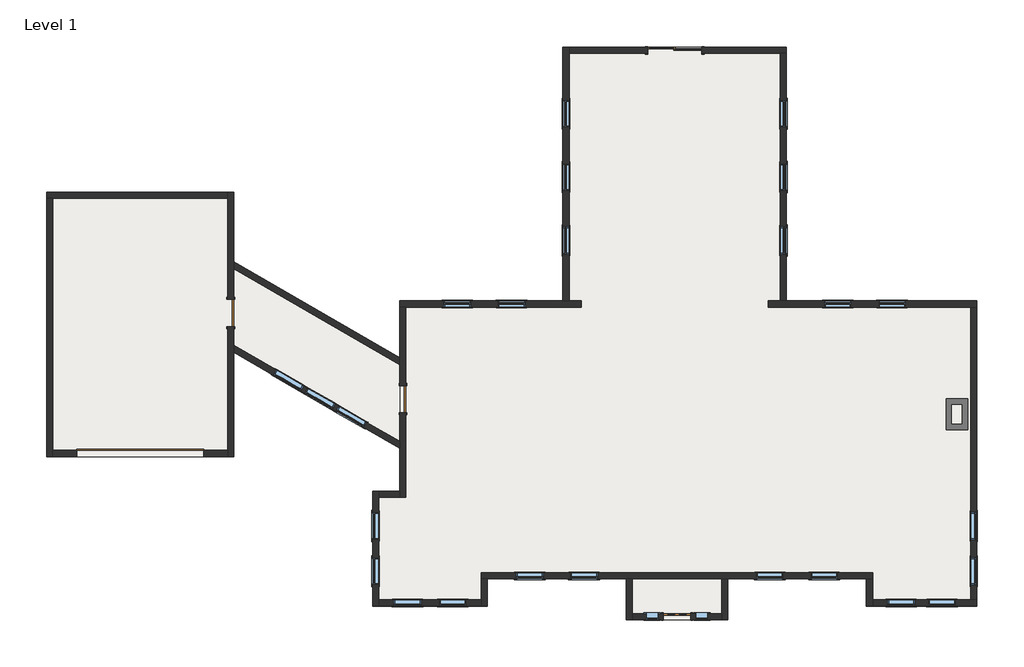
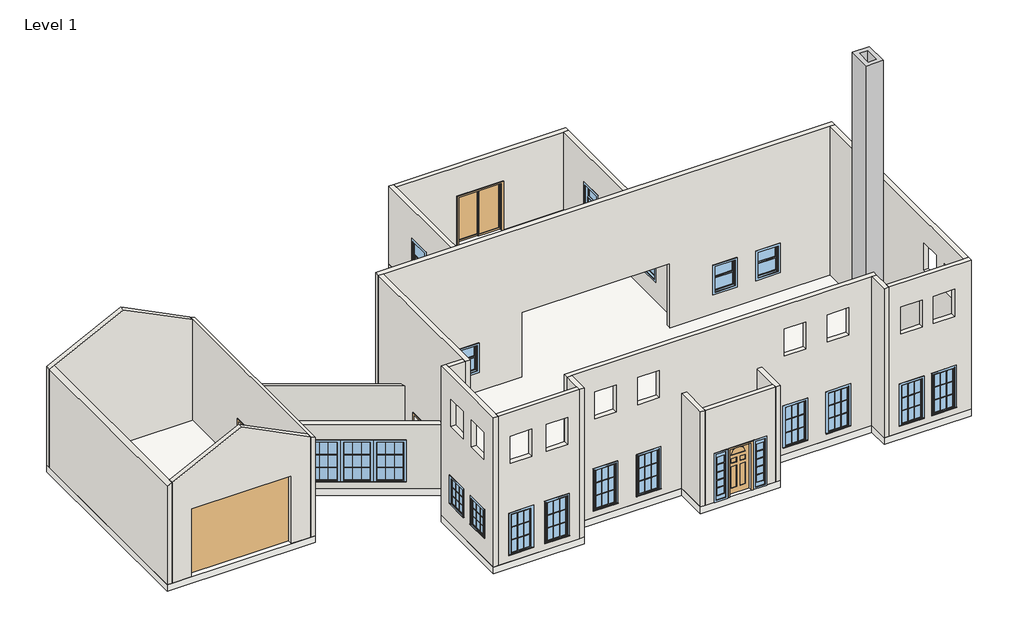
# One storey: 27 windows, 22 walls, 5 doors, 3 slabs, 1 proxy.
"""IFC4 building model written with IfcOpenShell, lengths in millimetres."""

from ifc_helpers import new_model, si_unit, frame, origin, origin_with_axes, place, context, project, spatial, polyline, outline, extrude, faceted_brep, transform, mapped, element, save
from components import chimney_chimney_af68f421, overhead_sectional_14_x_10_8c0ee61c, door_b1a02c97, door_4f2f89b6, door_f8fd2036, casement_3x3_with_trim_8b323df3, casement_3x3_with_trim_29c06734, casement_3x3_with_trim_7d330b5e, double_hung_with_trim_31198920, window_b28cb548, window_fc224a87

model = new_model("IFC4")

# Units and contexts
model_context = context("Model", 3, world=origin())
ifc_project = project(units=[si_unit("LENGTHUNIT", "METRE", prefix="MILLI")], contexts=[model_context])

# Site, building, storey
site = spatial("IfcSite", under=ifc_project)
building = spatial("IfcBuilding", under=site)
storey = spatial("IfcBuildingStorey", under=building, Name="Level 1", Elevation=0.0)

# Proxy
placement = place(None, origin())
chimney_chimney_shape = chimney_chimney_af68f421(model_context)
element("IfcBuildingElementProxy", 1, Name="chimney : chimney", ObjectType="chimney : chimney", at=placement, inside=storey, context=model_context, shape_type="MappedRepresentation", body=[
    mapped(chimney_chimney_shape, transform((0.0, 0.0, 0.0), x_axis=(1.0, 0.0, 0.0), y_axis=(0.0, 1.0, 0.0), z_axis=(0.0, 0.0, 1.0))),
])

# Doors
overhead_sectional_14_x_10_shape = overhead_sectional_14_x_10_8c0ee61c(model_context)
element("IfcDoor", 2, ObjectType="Overhead Sectional : 14 x 10", at=placement, inside=storey, context=model_context, shape_type="MappedRepresentation", body=[
    mapped(overhead_sectional_14_x_10_shape, transform((-185224.9354666, 11098.6757393, 0.0), x_axis=(-1.0, 0.0, 0.0), y_axis=(0.0, -1.0, 0.0), z_axis=(0.0, 0.0, 1.0))),
])
door_shape = door_b1a02c97(model_context)
element("IfcDoor", 3, ObjectType="Sample Decorative 2 : 36\" x 84\"", at=placement, inside=storey, context=model_context, shape_type="MappedRepresentation", body=[
    mapped(door_shape, transform((-167165.5354666, 5612.2757393, 0.0), x_axis=(1.0, 0.0, 0.0), y_axis=(0.0, 1.0, 0.0), z_axis=(0.0, 0.0, 1.0))),
])
door_2_shape = door_4f2f89b6(model_context)
element("IfcDoor", 4, ObjectType="Sgl Flush : 36\" x 80\"", at=placement, inside=storey, context=model_context, shape_type="MappedRepresentation", body=[
    mapped(door_2_shape, transform((-176385.7354666, 12927.4757393, 0.0), x_axis=(0.0, -1.0, 0.0), y_axis=(1.0, 0.0, 0.0), z_axis=(0.0, 0.0, 1.0))),
])
element("IfcDoor", 5, ObjectType="Sgl Flush : 36\" x 80\"", at=placement, inside=storey, context=model_context, shape_type="MappedRepresentation", body=[
    mapped(door_2_shape, transform((-182176.9354666, 15823.0757393, 0.0), x_axis=(0.0, -1.0, 0.0), y_axis=(1.0, 0.0, 0.0), z_axis=(0.0, 0.0, 1.0))),
])
door_3_shape = door_f8fd2036(model_context)
element("IfcDoor", 6, ObjectType="Sliding-2 panel : 72\" x 84\"", at=placement, inside=storey, context=model_context, shape_type="MappedRepresentation", body=[
    mapped(door_3_shape, transform((-167241.7354666, 24535.2757393, 0.0), x_axis=(1.0, 0.0, 0.0), y_axis=(0.0, 1.0, 0.0), z_axis=(0.0, 0.0, 1.0))),
])

# Slabs
element("IfcSlab", 7, ObjectType="Generic - 12\"", at=placement, inside=storey, context=model_context, shape_type="SweptSolid", body=[
    extrude(outline(polyline([(-188374.5354666, 19887.0757393), (-182075.3354666, 19887.0757393), (-182075.3354666, 10997.0757393), (-188374.5354666, 10997.0757393), (-188374.5354666, 19887.0757393)])), frame((0.0, 0.0, -304.8), z_axis=(0.0, 0.0, 1.0), x_axis=(1.0, 0.0, 0.0)), (0.0, 0.0, 1.0), 304.8),
])
element("IfcSlab", 8, ObjectType="Generic - 12\"", at=placement, inside=storey, context=model_context, shape_type="SweptSolid", body=[
    extrude(outline(polyline([(-182075.3354666, 17548.8854056), (-176487.3354666, 14322.6521013), (-176487.3354666, 11272.3951592), (-182075.3354666, 14498.6284634), (-182075.3354666, 17548.8854056)])), frame((0.0, 0.0, -304.8), z_axis=(0.0, 0.0, 1.0), x_axis=(1.0, 0.0, 0.0)), (0.0, 0.0, 1.0), 304.8),
])
element("IfcSlab", 9, ObjectType="Generic - 12\"", at=placement, inside=storey, context=model_context, shape_type="SweptSolid", body=[
    extrude(outline(polyline([(-171000.9354666, 16229.4757393), (-171000.9354666, 24763.8757393), (-163482.5354666, 24763.8757393), (-163482.5354666, 16229.4757393), (-157081.7354666, 16229.4757393), (-157081.7354666, 5967.8757393), (-160790.1354666, 5967.8757393), (-160790.1354666, 6882.2757393), (-165463.7354666, 6882.2757393), (-165463.7354666, 5510.6757393), (-168867.3354666, 5510.6757393), (-168867.3354666, 6882.2757393), (-173540.9354666, 6882.2757393), (-173540.9354666, 5967.8757393), (-177401.7354666, 5967.8757393), (-177401.7354666, 9828.6757393), (-176487.3354666, 9828.6757393), (-176487.3354666, 16229.4757393), (-171000.9354666, 16229.4757393)])), frame((0.0, 0.0, -304.8), z_axis=(0.0, 0.0, 1.0), x_axis=(1.0, 0.0, 0.0)), (0.0, 0.0, 1.0), 304.8),
])

# Walls
element("IfcWall", 10, ObjectType="Generic - 8\"", at=placement, inside=storey, context=model_context, shape_type="Brep", body=[
    faceted_brep([(-176487.3354666, 16026.2757393, 0.0), (-176284.1354666, 16026.2757393, 0.0), (-170391.3354666, 16026.2757393, 0.0), (-170391.3354666, 16026.2757393, 2895.6), (-164092.1354666, 16026.2757393, 2895.6), (-164092.1354666, 16026.2757393, 0.0), (-157284.9354666, 16026.2757393, 0.0), (-157081.7354666, 16026.2757393, 0.0), (-157081.7354666, 16026.2757393, 6705.6), (-157284.9354666, 16026.2757393, 6705.6), (-176284.1354666, 16026.2757393, 6705.6), (-176487.3354666, 16026.2757393, 6705.6), (-159469.3354666, 16026.2757393, 2133.6), (-159469.3354666, 16026.2757393, 914.4), (-160383.7354666, 16026.2757393, 914.4), (-160383.7354666, 16026.2757393, 2133.6), (-161298.1354666, 16026.2757393, 2133.6), (-161298.1354666, 16026.2757393, 914.4), (-162212.5354666, 16026.2757393, 914.4), (-162212.5354666, 16026.2757393, 2133.6), (-172270.9354666, 16026.2757393, 2133.6), (-172270.9354666, 16026.2757393, 914.4), (-173185.3354666, 16026.2757393, 914.4), (-173185.3354666, 16026.2757393, 2133.6), (-174099.7354666, 16026.2757393, 2133.6), (-174099.7354666, 16026.2757393, 914.4), (-175014.1354666, 16026.2757393, 914.4), (-175014.1354666, 16026.2757393, 2133.6), (-176487.3354666, 16229.4757393, 0.0), (-176487.3354666, 16229.4757393, 6705.6), (-157081.7354666, 16229.4757393, 6705.6), (-157081.7354666, 16229.4757393, 0.0), (-163482.5354666, 16229.4757393, 0.0), (-163685.7354666, 16229.4757393, 0.0), (-164092.1354666, 16229.4757393, 0.0), (-164092.1354666, 16229.4757393, 2895.6), (-170391.3354666, 16229.4757393, 2895.6), (-170391.3354666, 16229.4757393, 0.0), (-170797.7354666, 16229.4757393, 0.0), (-171000.9354666, 16229.4757393, 0.0), (-159469.3354666, 16229.4757393, 2133.6), (-160383.7354666, 16229.4757393, 2133.6), (-160383.7354666, 16229.4757393, 914.4), (-159469.3354666, 16229.4757393, 914.4), (-161298.1354666, 16229.4757393, 2133.6), (-162212.5354666, 16229.4757393, 2133.6), (-162212.5354666, 16229.4757393, 914.4), (-161298.1354666, 16229.4757393, 914.4), (-172270.9354666, 16229.4757393, 2133.6), (-173185.3354666, 16229.4757393, 2133.6), (-173185.3354666, 16229.4757393, 914.4), (-172270.9354666, 16229.4757393, 914.4), (-174099.7354666, 16229.4757393, 2133.6), (-175014.1354666, 16229.4757393, 2133.6), (-175014.1354666, 16229.4757393, 914.4), (-174099.7354666, 16229.4757393, 914.4)], [[[0, 1, 2, 3, 4, 5, 6, 7, 8, 9, 10, 11], [12, 13, 14, 15], [16, 17, 18, 19], [20, 21, 22, 23], [24, 25, 26, 27]], [[28, 29, 30, 31, 32, 33, 34, 35, 36, 37, 38, 39], [40, 41, 42, 43], [44, 45, 46, 47], [48, 49, 50, 51], [52, 53, 54, 55]], [[2, 1, 0, 28, 39, 38, 37]], [[11, 10, 9, 8, 30, 29]], [[0, 11, 29, 28]], [[3, 2, 37, 36]], [[4, 3, 36, 35]], [[5, 4, 35, 34]], [[7, 6, 5, 34, 33, 32, 31]], [[8, 7, 31, 30]], [[13, 12, 40, 43]], [[14, 13, 43, 42]], [[15, 14, 42, 41]], [[12, 15, 41, 40]], [[17, 16, 44, 47]], [[18, 17, 47, 46]], [[19, 18, 46, 45]], [[16, 19, 45, 44]], [[21, 20, 48, 51]], [[22, 21, 51, 50]], [[23, 22, 50, 49]], [[20, 23, 49, 48]], [[25, 24, 52, 55]], [[26, 25, 55, 54]], [[27, 26, 54, 53]], [[24, 27, 53, 52]]]),
])
element("IfcWall", 11, ObjectType="Generic - 8\"", at=placement, inside=storey, context=model_context, shape_type="Brep", body=[
    faceted_brep([(-176284.1354666, 9625.4757393, 0.0), (-176284.1354666, 12470.2757393, 0.0), (-176284.1354666, 12470.2757393, 2032.0), (-176284.1354666, 13384.6757393, 2032.0), (-176284.1354666, 13384.6757393, 0.0), (-176284.1354666, 16026.2757393, 0.0), (-176284.1354666, 16026.2757393, 6705.6), (-176284.1354666, 9625.4757393, 6705.6), (-176487.3354666, 12470.2757393, 2032.0), (-176487.3354666, 12470.2757393, 0.0), (-176487.3354666, 11507.0303086, 0.0), (-176487.3354666, 11272.3951592, 0.0), (-176487.3354666, 9828.6757393, 0.0), (-176487.3354666, 9625.4757393, 0.0), (-176487.3354666, 9625.4757393, 6705.6), (-176487.3354666, 9828.6757393, 6705.6), (-176487.3354666, 16026.2757393, 6705.6), (-176487.3354666, 16026.2757393, 0.0), (-176487.3354666, 14322.6521013, 0.0), (-176487.3354666, 14088.0169519, 0.0), (-176487.3354666, 13384.6757393, 0.0), (-176487.3354666, 13384.6757393, 2032.0)], [[[0, 1, 2, 3, 4, 5, 6, 7]], [[8, 9, 10, 11, 12, 13, 14, 15, 16, 17, 18, 19, 20, 21]], [[13, 12, 11, 10, 9, 1, 0]], [[20, 19, 18, 17, 5, 4]], [[7, 6, 16, 15, 14]], [[6, 5, 17, 16]], [[0, 7, 14, 13]], [[2, 1, 9, 8]], [[3, 2, 8, 21]], [[4, 3, 21, 20]]]),
])
element("IfcWall", 12, ObjectType="Generic - 8\"", at=placement, inside=storey, context=model_context, shape_type="Brep", body=[
    faceted_brep([(-160586.9354666, 7085.4757393, 0.0), (-173744.1354666, 7085.4757393, 0.0), (-173744.1354666, 7085.4757393, 6705.6), (-160586.9354666, 7085.4757393, 6705.6), (-162669.7354666, 7085.4757393, 5638.8), (-162669.7354666, 7085.4757393, 4419.6), (-161755.3354666, 7085.4757393, 4419.6), (-161755.3354666, 7085.4757393, 5638.8), (-164498.5354666, 7085.4757393, 5638.8), (-164498.5354666, 7085.4757393, 4419.6), (-163584.1354666, 7085.4757393, 4419.6), (-163584.1354666, 7085.4757393, 5638.8), (-170746.9354666, 7085.4757393, 5638.8), (-170746.9354666, 7085.4757393, 4419.6), (-169832.5354666, 7085.4757393, 4419.6), (-169832.5354666, 7085.4757393, 5638.8), (-172575.7354666, 7085.4757393, 5638.8), (-172575.7354666, 7085.4757393, 4419.6), (-171661.3354666, 7085.4757393, 4419.6), (-171661.3354666, 7085.4757393, 5638.8), (-162669.7354666, 7085.4757393, 2133.6), (-162669.7354666, 7085.4757393, 304.8), (-161755.3354666, 7085.4757393, 304.8), (-161755.3354666, 7085.4757393, 2133.6), (-164498.5354666, 7085.4757393, 2133.6), (-164498.5354666, 7085.4757393, 304.8), (-163584.1354666, 7085.4757393, 304.8), (-163584.1354666, 7085.4757393, 2133.6), (-170746.9354666, 7085.4757393, 2133.6), (-170746.9354666, 7085.4757393, 304.8), (-169832.5354666, 7085.4757393, 304.8), (-169832.5354666, 7085.4757393, 2133.6), (-172575.7354666, 7085.4757393, 2133.6), (-172575.7354666, 7085.4757393, 304.8), (-171661.3354666, 7085.4757393, 304.8), (-171661.3354666, 7085.4757393, 2133.6), (-160586.9354666, 6882.2757393, 0.0), (-160586.9354666, 6882.2757393, 6705.6), (-160790.1354666, 6882.2757393, 6705.6), (-173540.9354666, 6882.2757393, 6705.6), (-173744.1354666, 6882.2757393, 6705.6), (-173744.1354666, 6882.2757393, 0.0), (-173540.9354666, 6882.2757393, 0.0), (-168867.3354666, 6882.2757393, 0.0), (-168664.1354666, 6882.2757393, 0.0), (-165666.9354666, 6882.2757393, 0.0), (-165463.7354666, 6882.2757393, 0.0), (-160790.1354666, 6882.2757393, 0.0), (-162669.7354666, 6882.2757393, 5638.8), (-161755.3354666, 6882.2757393, 5638.8), (-161755.3354666, 6882.2757393, 4419.6), (-162669.7354666, 6882.2757393, 4419.6), (-164498.5354666, 6882.2757393, 5638.8), (-163584.1354666, 6882.2757393, 5638.8), (-163584.1354666, 6882.2757393, 4419.6), (-164498.5354666, 6882.2757393, 4419.6), (-170746.9354666, 6882.2757393, 5638.8), (-169832.5354666, 6882.2757393, 5638.8), (-169832.5354666, 6882.2757393, 4419.6), (-170746.9354666, 6882.2757393, 4419.6), (-172575.7354666, 6882.2757393, 5638.8), (-171661.3354666, 6882.2757393, 5638.8), (-171661.3354666, 6882.2757393, 4419.6), (-172575.7354666, 6882.2757393, 4419.6), (-162669.7354666, 6882.2757393, 2133.6), (-161755.3354666, 6882.2757393, 2133.6), (-161755.3354666, 6882.2757393, 304.8), (-162669.7354666, 6882.2757393, 304.8), (-164498.5354666, 6882.2757393, 2133.6), (-163584.1354666, 6882.2757393, 2133.6), (-163584.1354666, 6882.2757393, 304.8), (-164498.5354666, 6882.2757393, 304.8), (-170746.9354666, 6882.2757393, 2133.6), (-169832.5354666, 6882.2757393, 2133.6), (-169832.5354666, 6882.2757393, 304.8), (-170746.9354666, 6882.2757393, 304.8), (-172575.7354666, 6882.2757393, 2133.6), (-171661.3354666, 6882.2757393, 2133.6), (-171661.3354666, 6882.2757393, 304.8), (-172575.7354666, 6882.2757393, 304.8)], [[[0, 1, 2, 3], [4, 5, 6, 7], [8, 9, 10, 11], [12, 13, 14, 15], [16, 17, 18, 19], [20, 21, 22, 23], [24, 25, 26, 27], [28, 29, 30, 31], [32, 33, 34, 35]], [[36, 37, 38, 39, 40, 41, 42, 43, 44, 45, 46, 47], [48, 49, 50, 51], [52, 53, 54, 55], [56, 57, 58, 59], [60, 61, 62, 63], [64, 65, 66, 67], [68, 69, 70, 71], [72, 73, 74, 75], [76, 77, 78, 79]], [[1, 0, 36, 47, 46, 45, 44, 43, 42, 41]], [[3, 2, 40, 39, 38, 37]], [[2, 1, 41, 40]], [[0, 3, 37, 36]], [[5, 4, 48, 51]], [[6, 5, 51, 50]], [[7, 6, 50, 49]], [[4, 7, 49, 48]], [[9, 8, 52, 55]], [[10, 9, 55, 54]], [[11, 10, 54, 53]], [[8, 11, 53, 52]], [[13, 12, 56, 59]], [[14, 13, 59, 58]], [[15, 14, 58, 57]], [[12, 15, 57, 56]], [[17, 16, 60, 63]], [[18, 17, 63, 62]], [[19, 18, 62, 61]], [[16, 19, 61, 60]], [[21, 20, 64, 67]], [[22, 21, 67, 66]], [[23, 22, 66, 65]], [[20, 23, 65, 64]], [[25, 24, 68, 71]], [[26, 25, 71, 70]], [[27, 26, 70, 69]], [[24, 27, 69, 68]], [[29, 28, 72, 75]], [[30, 29, 75, 74]], [[31, 30, 74, 73]], [[28, 31, 73, 72]], [[33, 32, 76, 79]], [[34, 33, 79, 78]], [[35, 34, 78, 77]], [[32, 35, 77, 76]]]),
])
element("IfcWall", 13, ObjectType="Generic - 8\"", at=placement, inside=storey, context=model_context, shape_type="Brep", body=[
    faceted_brep([(-177198.5354666, 5967.8757393, 6705.6), (-177198.5354666, 6171.0757393, 6705.6), (-177198.5354666, 9625.4757393, 6705.6), (-177198.5354666, 9828.6757393, 6705.6), (-177401.7354666, 9828.6757393, 6705.6), (-177401.7354666, 5967.8757393, 6705.6), (-177198.5354666, 5967.8757393, 0.0), (-177198.5354666, 6171.0757393, 0.0), (-177198.5354666, 9625.4757393, 0.0), (-177198.5354666, 9828.6757393, 0.0), (-177198.5354666, 9117.4757393, 2133.6), (-177198.5354666, 9117.4757393, 914.4), (-177198.5354666, 8203.0757393, 914.4), (-177198.5354666, 8203.0757393, 2133.6), (-177198.5354666, 7593.4757393, 2133.6), (-177198.5354666, 7593.4757393, 914.4), (-177198.5354666, 6679.0757393, 914.4), (-177198.5354666, 6679.0757393, 2133.6), (-177198.5354666, 9117.4757393, 5638.8), (-177198.5354666, 9117.4757393, 4419.6), (-177198.5354666, 8203.0757393, 4419.6), (-177198.5354666, 8203.0757393, 5638.8), (-177198.5354666, 7593.4757393, 5638.8), (-177198.5354666, 7593.4757393, 4419.6), (-177198.5354666, 6679.0757393, 4419.6), (-177198.5354666, 6679.0757393, 5638.8), (-177401.7354666, 5967.8757393, 0.0), (-177401.7354666, 9828.6757393, 0.0), (-177401.7354666, 9117.4757393, 2133.6), (-177401.7354666, 8203.0757393, 2133.6), (-177401.7354666, 8203.0757393, 914.4), (-177401.7354666, 9117.4757393, 914.4), (-177401.7354666, 7593.4757393, 2133.6), (-177401.7354666, 6679.0757393, 2133.6), (-177401.7354666, 6679.0757393, 914.4), (-177401.7354666, 7593.4757393, 914.4), (-177401.7354666, 9117.4757393, 5638.8), (-177401.7354666, 8203.0757393, 5638.8), (-177401.7354666, 8203.0757393, 4419.6), (-177401.7354666, 9117.4757393, 4419.6), (-177401.7354666, 7593.4757393, 5638.8), (-177401.7354666, 6679.0757393, 5638.8), (-177401.7354666, 6679.0757393, 4419.6), (-177401.7354666, 7593.4757393, 4419.6)], [[[0, 1, 2, 3, 4, 5]], [[6, 7, 8, 9, 3, 2, 1, 0], [10, 11, 12, 13], [14, 15, 16, 17], [18, 19, 20, 21], [22, 23, 24, 25]], [[26, 5, 4, 27], [28, 29, 30, 31], [32, 33, 34, 35], [36, 37, 38, 39], [40, 41, 42, 43]], [[9, 8, 7, 6, 26, 27]], [[3, 9, 27, 4]], [[6, 0, 5, 26]], [[11, 10, 28, 31]], [[12, 11, 31, 30]], [[13, 12, 30, 29]], [[10, 13, 29, 28]], [[15, 14, 32, 35]], [[16, 15, 35, 34]], [[17, 16, 34, 33]], [[14, 17, 33, 32]], [[19, 18, 36, 39]], [[20, 19, 39, 38]], [[21, 20, 38, 37]], [[18, 21, 37, 36]], [[23, 22, 40, 43]], [[24, 23, 43, 42]], [[25, 24, 42, 41]], [[22, 25, 41, 40]]]),
])
element("IfcWall", 14, ObjectType="Generic - 8\"", at=placement, inside=storey, context=model_context, shape_type="SweptSolid", body=[
    extrude(outline(polyline([(-176487.3354666, 9625.4757393), (-177198.5354666, 9625.4757393), (-177198.5354666, 9828.6757393), (-176487.3354666, 9828.6757393), (-176487.3354666, 9625.4757393)])), origin_with_axes(), (0.0, 0.0, 1.0), 6705.6),
])
element("IfcWall", 15, ObjectType="Generic - 8\"", at=placement, inside=storey, context=model_context, shape_type="SweptSolid", body=[
    extrude(outline(polyline([(16026.2757393, 0.0), (6171.0757393, 0.0), (6171.0757393, 6705.6), (16026.2757393, 6705.6), (16026.2757393, 0.0)]), holes=[polyline([(8203.0757393, 2133.6), (8203.0757393, 914.4), (9117.4757393, 914.4), (9117.4757393, 2133.6), (8203.0757393, 2133.6)]), polyline([(6679.0757393, 2133.6), (6679.0757393, 914.4), (7593.4757393, 914.4), (7593.4757393, 2133.6), (6679.0757393, 2133.6)]), polyline([(8203.0757393, 5638.8), (8203.0757393, 4419.6), (9117.4757393, 4419.6), (9117.4757393, 5638.8), (8203.0757393, 5638.8)]), polyline([(6679.0757393, 5638.8), (6679.0757393, 4419.6), (7593.4757393, 4419.6), (7593.4757393, 5638.8), (6679.0757393, 5638.8)])]), frame((-157284.9354666, 0.0, 0.0), z_axis=(1.0, 0.0, 0.0), x_axis=(0.0, 1.0, 0.0)), (0.0, 0.0, 1.0), 203.2),
])
element("IfcWall", 16, ObjectType="Generic - 8\"", at=placement, inside=storey, context=model_context, shape_type="Brep", body=[
    faceted_brep([(-173744.1354666, 6882.2757393, 0.0), (-173744.1354666, 6171.0757393, 0.0), (-173744.1354666, 5967.8757393, 0.0), (-173744.1354666, 5967.8757393, 6705.6), (-173744.1354666, 6171.0757393, 6705.6), (-173744.1354666, 6882.2757393, 6705.6), (-173540.9354666, 6882.2757393, 0.0), (-173540.9354666, 6882.2757393, 6705.6), (-173540.9354666, 5967.8757393, 6705.6), (-173540.9354666, 5967.8757393, 0.0)], [[[0, 1, 2, 3, 4, 5]], [[6, 7, 8, 9]], [[2, 1, 0, 6, 9]], [[5, 4, 3, 8, 7]], [[3, 2, 9, 8]], [[0, 5, 7, 6]]]),
])
element("IfcWall", 17, ObjectType="Generic - 8\"", at=placement, inside=storey, context=model_context, shape_type="SweptSolid", body=[
    extrude(outline(polyline([(0.0, -173744.1354666), (6705.6, -173744.1354666), (6705.6, -177198.5354666), (0.0, -177198.5354666), (0.0, -173744.1354666)]), holes=[polyline([(5638.8, -175166.5354666), (5638.8, -174252.1354666), (4419.6, -174252.1354666), (4419.6, -175166.5354666), (5638.8, -175166.5354666)]), polyline([(5638.8, -176690.5354666), (5638.8, -175776.1354666), (4419.6, -175776.1354666), (4419.6, -176690.5354666), (5638.8, -176690.5354666)]), polyline([(2133.6, -175166.5354666), (2133.6, -174252.1354666), (304.8, -174252.1354666), (304.8, -175166.5354666), (2133.6, -175166.5354666)]), polyline([(2133.6, -176690.5354666), (2133.6, -175776.1354666), (304.8, -175776.1354666), (304.8, -176690.5354666), (2133.6, -176690.5354666)])]), frame((0.0, 5967.8757393, 0.0), z_axis=(0.0, 1.0, 0.0), x_axis=(0.0, 0.0, 1.0)), (0.0, 0.0, 1.0), 203.2),
])
element("IfcWall", 18, ObjectType="Generic - 8\"", at=placement, inside=storey, context=model_context, shape_type="Brep", body=[
    faceted_brep([(-160790.1354666, 6882.2757393, 0.0), (-160790.1354666, 5967.8757393, 0.0), (-160790.1354666, 5967.8757393, 6705.6), (-160790.1354666, 6882.2757393, 6705.6), (-160586.9354666, 6882.2757393, 0.0), (-160586.9354666, 6882.2757393, 6705.6), (-160586.9354666, 6171.0757393, 6705.6), (-160586.9354666, 5967.8757393, 6705.6), (-160586.9354666, 5967.8757393, 0.0), (-160586.9354666, 6171.0757393, 0.0)], [[[0, 1, 2, 3]], [[4, 5, 6, 7, 8, 9]], [[1, 0, 4, 9, 8]], [[3, 2, 7, 6, 5]], [[2, 1, 8, 7]], [[0, 3, 5, 4]]]),
])
element("IfcWall", 19, ObjectType="Generic - 8\"", at=placement, inside=storey, context=model_context, shape_type="Brep", body=[
    faceted_brep([(-160586.9354666, 5967.8757393, 6705.6), (-157081.7354666, 5967.8757393, 6705.6), (-157081.7354666, 6171.0757393, 6705.6), (-157284.9354666, 6171.0757393, 6705.6), (-160586.9354666, 6171.0757393, 6705.6), (-160586.9354666, 5967.8757393, 0.0), (-157081.7354666, 5967.8757393, 0.0), (-158707.3354666, 5967.8757393, 5638.8), (-157792.9354666, 5967.8757393, 5638.8), (-157792.9354666, 5967.8757393, 4419.6), (-158707.3354666, 5967.8757393, 4419.6), (-160078.9354666, 5967.8757393, 5638.8), (-159164.5354666, 5967.8757393, 5638.8), (-159164.5354666, 5967.8757393, 4419.6), (-160078.9354666, 5967.8757393, 4419.6), (-158707.3354666, 5967.8757393, 2133.6), (-157792.9354666, 5967.8757393, 2133.6), (-157792.9354666, 5967.8757393, 304.8), (-158707.3354666, 5967.8757393, 304.8), (-160078.9354666, 5967.8757393, 2133.6), (-159164.5354666, 5967.8757393, 2133.6), (-159164.5354666, 5967.8757393, 304.8), (-160078.9354666, 5967.8757393, 304.8), (-160586.9354666, 6171.0757393, 0.0), (-157081.7354666, 6171.0757393, 0.0), (-157284.9354666, 6171.0757393, 0.0), (-158707.3354666, 6171.0757393, 5638.8), (-158707.3354666, 6171.0757393, 4419.6), (-157792.9354666, 6171.0757393, 4419.6), (-157792.9354666, 6171.0757393, 5638.8), (-160078.9354666, 6171.0757393, 5638.8), (-160078.9354666, 6171.0757393, 4419.6), (-159164.5354666, 6171.0757393, 4419.6), (-159164.5354666, 6171.0757393, 5638.8), (-158707.3354666, 6171.0757393, 2133.6), (-158707.3354666, 6171.0757393, 304.8), (-157792.9354666, 6171.0757393, 304.8), (-157792.9354666, 6171.0757393, 2133.6), (-160078.9354666, 6171.0757393, 2133.6), (-160078.9354666, 6171.0757393, 304.8), (-159164.5354666, 6171.0757393, 304.8), (-159164.5354666, 6171.0757393, 2133.6)], [[[0, 1, 2, 3, 4]], [[5, 6, 1, 0], [7, 8, 9, 10], [11, 12, 13, 14], [15, 16, 17, 18], [19, 20, 21, 22]], [[23, 4, 3, 2, 24, 25], [26, 27, 28, 29], [30, 31, 32, 33], [34, 35, 36, 37], [38, 39, 40, 41]], [[6, 5, 23, 25, 24]], [[5, 0, 4, 23]], [[1, 6, 24, 2]], [[27, 26, 7, 10]], [[28, 27, 10, 9]], [[29, 28, 9, 8]], [[26, 29, 8, 7]], [[31, 30, 11, 14]], [[32, 31, 14, 13]], [[33, 32, 13, 12]], [[30, 33, 12, 11]], [[35, 34, 15, 18]], [[36, 35, 18, 17]], [[37, 36, 17, 16]], [[34, 37, 16, 15]], [[39, 38, 19, 22]], [[40, 39, 22, 21]], [[41, 40, 21, 20]], [[38, 41, 20, 19]]]),
])
element("IfcWall", 20, ObjectType="Generic - 8\"", at=placement, inside=storey, context=model_context, shape_type="Brep", body=[
    faceted_brep([(-168867.3354666, 6882.2757393, 0.0), (-168867.3354666, 5510.6757393, 0.0), (-168867.3354666, 5510.6757393, 4267.2), (-168867.3354666, 6882.2757393, 4267.2), (-168664.1354666, 6882.2757393, 0.0), (-168664.1354666, 6882.2757393, 4267.2), (-168664.1354666, 5713.8757393, 4267.2), (-168664.1354666, 5510.6757393, 4267.2), (-168664.1354666, 5510.6757393, 0.0), (-168664.1354666, 5713.8757393, 0.0)], [[[0, 1, 2, 3]], [[4, 5, 6, 7, 8, 9]], [[1, 0, 4, 9, 8]], [[3, 2, 7, 6, 5]], [[2, 1, 8, 7]], [[0, 3, 5, 4]]]),
])
element("IfcWall", 21, ObjectType="Generic - 8\"", at=placement, inside=storey, context=model_context, shape_type="Brep", body=[
    faceted_brep([(-165666.9354666, 6882.2757393, 0.0), (-165666.9354666, 5713.8757393, 0.0), (-165666.9354666, 5510.6757393, 0.0), (-165666.9354666, 5510.6757393, 4267.2), (-165666.9354666, 5713.8757393, 4267.2), (-165666.9354666, 6882.2757393, 4267.2), (-165463.7354666, 6882.2757393, 0.0), (-165463.7354666, 6882.2757393, 4267.2), (-165463.7354666, 5510.6757393, 4267.2), (-165463.7354666, 5510.6757393, 0.0)], [[[0, 1, 2, 3, 4, 5]], [[6, 7, 8, 9]], [[2, 1, 0, 6, 9]], [[5, 4, 3, 8, 7]], [[3, 2, 9, 8]], [[0, 5, 7, 6]]]),
])
element("IfcWall", 22, ObjectType="Generic - 8\"", at=placement, inside=storey, context=model_context, shape_type="SweptSolid", body=[
    extrude(outline(polyline([(0.0, -166708.3354666), (0.0, -166530.5354666), (2133.6, -166530.5354666), (2133.6, -166124.1354666), (0.0, -166124.1354666), (0.0, -165666.9354666), (4267.2, -165666.9354666), (4267.2, -168664.1354666), (0.0, -168664.1354666), (0.0, -168206.9354666), (2133.6, -168206.9354666), (2133.6, -167800.5354666), (0.0, -167800.5354666), (0.0, -167622.7354666), (2133.6, -167622.7354666), (2133.6, -166708.3354666), (0.0, -166708.3354666)])), frame((0.0, 5510.6757393, 0.0), z_axis=(0.0, 1.0, 0.0), x_axis=(0.0, 0.0, 1.0)), (0.0, 0.0, 1.0), 203.2),
])
element("IfcWall", 23, ObjectType="Generic - 8\"", at=placement, inside=storey, context=model_context, shape_type="Brep", body=[
    faceted_brep([(-170797.7354666, 16229.4757393, 3505.2), (-170797.7354666, 24560.6757393, 3505.2), (-170797.7354666, 24763.8757393, 3505.2), (-171000.9354666, 24763.8757393, 3505.2), (-171000.9354666, 16229.4757393, 3505.2), (-170797.7354666, 16229.4757393, 0.0), (-170797.7354666, 24560.6757393, 0.0), (-170797.7354666, 24763.8757393, 0.0), (-170797.7354666, 22985.8757393, 2133.6), (-170797.7354666, 22985.8757393, 914.4), (-170797.7354666, 22071.4757393, 914.4), (-170797.7354666, 22071.4757393, 2133.6), (-170797.7354666, 20852.2757393, 2133.6), (-170797.7354666, 20852.2757393, 914.4), (-170797.7354666, 19937.8757393, 914.4), (-170797.7354666, 19937.8757393, 2133.6), (-170797.7354666, 18718.6757393, 2133.6), (-170797.7354666, 18718.6757393, 914.4), (-170797.7354666, 17804.2757393, 914.4), (-170797.7354666, 17804.2757393, 2133.6), (-171000.9354666, 16229.4757393, 0.0), (-171000.9354666, 24763.8757393, 0.0), (-171000.9354666, 22985.8757393, 2133.6), (-171000.9354666, 22071.4757393, 2133.6), (-171000.9354666, 22071.4757393, 914.4), (-171000.9354666, 22985.8757393, 914.4), (-171000.9354666, 20852.2757393, 2133.6), (-171000.9354666, 19937.8757393, 2133.6), (-171000.9354666, 19937.8757393, 914.4), (-171000.9354666, 20852.2757393, 914.4), (-171000.9354666, 18718.6757393, 2133.6), (-171000.9354666, 17804.2757393, 2133.6), (-171000.9354666, 17804.2757393, 914.4), (-171000.9354666, 18718.6757393, 914.4)], [[[0, 1, 2, 3, 4]], [[5, 6, 7, 2, 1, 0], [8, 9, 10, 11], [12, 13, 14, 15], [16, 17, 18, 19]], [[20, 4, 3, 21], [22, 23, 24, 25], [26, 27, 28, 29], [30, 31, 32, 33]], [[7, 6, 5, 20, 21]], [[5, 0, 4, 20]], [[2, 7, 21, 3]], [[9, 8, 22, 25]], [[10, 9, 25, 24]], [[11, 10, 24, 23]], [[8, 11, 23, 22]], [[13, 12, 26, 29]], [[14, 13, 29, 28]], [[15, 14, 28, 27]], [[12, 15, 27, 26]], [[17, 16, 30, 33]], [[18, 17, 33, 32]], [[19, 18, 32, 31]], [[16, 19, 31, 30]]]),
])
element("IfcWall", 24, ObjectType="Generic - 8\"", at=placement, inside=storey, context=model_context, shape_type="Brep", body=[
    faceted_brep([(-170797.7354666, 24560.6757393, 3505.2), (-163685.7354666, 24560.6757393, 3505.2), (-163482.5354666, 24560.6757393, 3505.2), (-163482.5354666, 24763.8757393, 3505.2), (-170797.7354666, 24763.8757393, 3505.2), (-166327.3354666, 24560.6757393, 2133.6), (-166327.3354666, 24560.6757393, 0.0), (-163685.7354666, 24560.6757393, 0.0), (-163482.5354666, 24560.6757393, 0.0), (-170797.7354666, 24560.6757393, 0.0), (-168156.1354666, 24560.6757393, 0.0), (-168156.1354666, 24560.6757393, 2133.6), (-163482.5354666, 24763.8757393, 0.0), (-166327.3354666, 24763.8757393, 0.0), (-166327.3354666, 24763.8757393, 2133.6), (-168156.1354666, 24763.8757393, 2133.6), (-168156.1354666, 24763.8757393, 0.0), (-170797.7354666, 24763.8757393, 0.0)], [[[0, 1, 2, 3, 4]], [[5, 6, 7, 8, 2, 1, 0, 9, 10, 11]], [[12, 13, 14, 15, 16, 17, 4, 3]], [[8, 7, 6, 13, 12]], [[10, 9, 17, 16]], [[9, 0, 4, 17]], [[2, 8, 12, 3]], [[16, 15, 11, 10]], [[14, 13, 6, 5]], [[15, 14, 5, 11]]]),
])
element("IfcWall", 25, ObjectType="Generic - 8\"", at=placement, inside=storey, context=model_context, shape_type="SweptSolid", body=[
    extrude(outline(polyline([(16229.4757393, 0.0), (16229.4757393, 3505.2), (24560.6757393, 3505.2), (24560.6757393, 0.0), (16229.4757393, 0.0)]), holes=[polyline([(17804.2757393, 2133.6), (17804.2757393, 914.4), (18718.6757393, 914.4), (18718.6757393, 2133.6), (17804.2757393, 2133.6)]), polyline([(19937.8757393, 2133.6), (19937.8757393, 914.4), (20852.2757393, 914.4), (20852.2757393, 2133.6), (19937.8757393, 2133.6)]), polyline([(22071.4757393, 2133.6), (22071.4757393, 914.4), (22985.8757393, 914.4), (22985.8757393, 2133.6), (22071.4757393, 2133.6)])]), frame((-163685.7354666, 0.0, 0.0), z_axis=(1.0, 0.0, 0.0), x_axis=(0.0, 1.0, 0.0)), (0.0, 0.0, 1.0), 203.2),
])
element("IfcWall", 26, ObjectType="Generic - 8\"", at=placement, inside=storey, context=model_context, shape_type="Brep", body=[
    faceted_brep([(-188374.5354666, 19683.8757393, 0.0), (-188171.3354666, 19683.8757393, 0.0), (-182278.5354666, 19683.8757393, 0.0), (-182278.5354666, 19683.8757393, 4521.2), (-185224.9354666, 19683.8757393, 5994.4), (-188171.3354666, 19683.8757393, 4521.2), (-188374.5354666, 19683.8757393, 4419.6), (-188374.5354666, 19887.0757393, 0.0), (-188374.5354666, 19887.0757393, 4419.6), (-185224.9354666, 19887.0757393, 5994.4), (-182278.5354666, 19887.0757393, 4521.2), (-182278.5354666, 19887.0757393, 0.0)], [[[0, 1, 2, 3, 4, 5, 6]], [[7, 8, 9, 10, 11]], [[2, 1, 0, 7, 11]], [[0, 6, 8, 7]], [[3, 2, 11, 10]], [[6, 5, 4, 9, 8]], [[4, 3, 10, 9]]]),
])
element("IfcWall", 27, ObjectType="Generic - 8\"", at=placement, inside=storey, context=model_context, shape_type="Brep", body=[
    faceted_brep([(-188171.3354666, 10997.0757393, 0.0), (-188171.3354666, 11200.2757393, 0.0), (-188171.3354666, 19683.8757393, 0.0), (-188171.3354666, 19683.8757393, 4521.2), (-188171.3354666, 11200.2757393, 4521.2), (-188171.3354666, 10997.0757393, 4521.2), (-188374.5354666, 10997.0757393, 0.0), (-188374.5354666, 10997.0757393, 4419.6), (-188374.5354666, 19683.8757393, 4419.6), (-188374.5354666, 19683.8757393, 0.0)], [[[0, 1, 2, 3, 4, 5]], [[6, 7, 8, 9]], [[2, 1, 0, 6, 9]], [[0, 5, 7, 6]], [[3, 2, 9, 8]], [[5, 4, 3, 8, 7]]]),
])
element("IfcWall", 28, ObjectType="Generic - 8\"", at=placement, inside=storey, context=model_context, shape_type="SweptSolid", body=[
    extrude(outline(polyline([(0.0, -188171.3354666), (0.0, -187358.5354666), (3048.0, -187358.5354666), (3048.0, -183091.3354666), (0.0, -183091.3354666), (0.0, -182278.5354666), (4521.2, -182278.5354666), (5994.4, -185224.9354666), (4521.2, -188171.3354666), (0.0, -188171.3354666)])), frame((0.0, 10997.0757393, 0.0), z_axis=(0.0, 1.0, 0.0), x_axis=(0.0, 0.0, 1.0)), (0.0, 0.0, 1.0), 203.2),
])
element("IfcWall", 29, ObjectType="Generic - 8\"", at=placement, inside=storey, context=model_context, shape_type="Brep", body=[
    faceted_brep([(-182278.5354666, 15365.8757393, 2032.0), (-182278.5354666, 15365.8757393, 0.0), (-182278.5354666, 11200.2757393, 0.0), (-182278.5354666, 10997.0757393, 0.0), (-182278.5354666, 10997.0757393, 4521.2), (-182278.5354666, 11200.2757393, 4521.2), (-182278.5354666, 19683.8757393, 4521.2), (-182278.5354666, 19887.0757393, 4521.2), (-182278.5354666, 19887.0757393, 0.0), (-182278.5354666, 19683.8757393, 0.0), (-182278.5354666, 16280.2757393, 0.0), (-182278.5354666, 16280.2757393, 2032.0), (-182075.3354666, 10997.0757393, 0.0), (-182075.3354666, 14498.6284634, 0.0), (-182075.3354666, 14733.2636128, 0.0), (-182075.3354666, 15365.8757393, 0.0), (-182075.3354666, 15365.8757393, 2032.0), (-182075.3354666, 16280.2757393, 2032.0), (-182075.3354666, 16280.2757393, 0.0), (-182075.3354666, 17314.2502562, 0.0), (-182075.3354666, 17548.8854056, 0.0), (-182075.3354666, 19887.0757393, 0.0), (-182075.3354666, 19887.0757393, 4419.6), (-182075.3354666, 10997.0757393, 4419.6)], [[[0, 1, 2, 3, 4, 5, 6, 7, 8, 9, 10, 11]], [[12, 13, 14, 15, 16, 17, 18, 19, 20, 21, 22, 23]], [[3, 2, 1, 15, 14, 13, 12]], [[10, 9, 8, 21, 20, 19, 18]], [[8, 7, 22, 21]], [[4, 3, 12, 23]], [[7, 6, 5, 4, 23, 22]], [[16, 15, 1, 0]], [[17, 16, 0, 11]], [[18, 17, 11, 10]]]),
])
element("IfcWall", 30, ObjectType="Generic - 8\"", at=placement, inside=storey, context=model_context, shape_type="Brep", body=[
    faceted_brep([(-176487.3354666, 14322.6521013, 0.0), (-182075.3354666, 17548.8854056, 0.0), (-182075.3354666, 17548.8854056, 2850.8499433), (-176487.3354666, 14322.6521013, 2850.8499433), (-176487.3354666, 14088.0169519, 0.0), (-176487.3354666, 14088.0169519, 2903.1013718), (-182075.3354666, 17314.2502562, 2903.1013718), (-182075.3354666, 17314.2502562, 0.0)], [[[0, 1, 2, 3]], [[4, 5, 6, 7]], [[1, 0, 4, 7]], [[0, 3, 5, 4]], [[2, 1, 7, 6]], [[3, 2, 6, 5]]]),
])
element("IfcWall", 31, ObjectType="Generic - 8\"", at=placement, inside=storey, context=model_context, shape_type="Brep", body=[
    faceted_brep([(-176487.3354666, 11507.0303086, 0.0), (-182075.3354666, 14733.2636128, 0.0), (-182075.3354666, 14733.2636128, 2903.1013718), (-176487.3354666, 11507.0303086, 2903.1013718), (-178535.1154909, 12689.3166568, 2133.6), (-178535.1154909, 12689.3166568, 304.8), (-177611.2395902, 12155.9166568, 304.8), (-177611.2395902, 12155.9166568, 2133.6), (-179590.9736632, 13298.9166568, 2133.6), (-179590.9736632, 13298.9166568, 304.8), (-178667.0977625, 12765.5166568, 304.8), (-178667.0977625, 12765.5166568, 2133.6), (-180646.8318355, 13908.5166568, 2133.6), (-180646.8318355, 13908.5166568, 304.8), (-179722.9559347, 13375.1166568, 304.8), (-179722.9559347, 13375.1166568, 2133.6), (-176487.3354666, 11272.3951592, 0.0), (-176487.3354666, 11272.3951592, 2850.8499433), (-182075.3354666, 14498.6284634, 2850.8499433), (-182075.3354666, 14498.6284634, 0.0), (-178636.7154909, 12513.3402948, 2133.6), (-177712.8395902, 11979.9402948, 2133.6), (-177712.8395902, 11979.9402948, 304.8), (-178636.7154909, 12513.3402948, 304.8), (-179692.5736632, 13122.9402948, 2133.6), (-178768.6977625, 12589.5402948, 2133.6), (-178768.6977625, 12589.5402948, 304.8), (-179692.5736632, 13122.9402948, 304.8), (-180748.4318355, 13732.5402948, 2133.6), (-179824.5559347, 13199.1402948, 2133.6), (-179824.5559347, 13199.1402948, 304.8), (-180748.4318355, 13732.5402948, 304.8)], [[[0, 1, 2, 3], [4, 5, 6, 7], [8, 9, 10, 11], [12, 13, 14, 15]], [[16, 17, 18, 19], [20, 21, 22, 23], [24, 25, 26, 27], [28, 29, 30, 31]], [[1, 0, 16, 19]], [[0, 3, 17, 16]], [[2, 1, 19, 18]], [[3, 2, 18, 17]], [[5, 4, 20, 23]], [[6, 5, 23, 22]], [[7, 6, 22, 21]], [[4, 7, 21, 20]], [[9, 8, 24, 27]], [[10, 9, 27, 26]], [[11, 10, 26, 25]], [[8, 11, 25, 24]], [[13, 12, 28, 31]], [[14, 13, 31, 30]], [[15, 14, 30, 29]], [[12, 15, 29, 28]]]),
])

# Windows
casement_3x3_with_trim_shape = casement_3x3_with_trim_8b323df3(model_context)
element("IfcWindow", 32, ObjectType="Casement 3x3 with Trim : 36\"w x 72\"h", at=placement, inside=storey, context=model_context, shape_type="MappedRepresentation", body=[
    mapped(casement_3x3_with_trim_shape, transform((-176233.3354666, 6069.4757393, 0.0), x_axis=(-1.0, 0.0, 0.0), y_axis=(0.0, -1.0, 0.0), z_axis=(0.0, 0.0, 1.0))),
])
element("IfcWindow", 33, ObjectType="Casement 3x3 with Trim : 36\"w x 72\"h", at=placement, inside=storey, context=model_context, shape_type="MappedRepresentation", body=[
    mapped(casement_3x3_with_trim_shape, transform((-174709.3354666, 6069.4757393, 0.0), x_axis=(-1.0, 0.0, 0.0), y_axis=(0.0, -1.0, 0.0), z_axis=(0.0, 0.0, 1.0))),
])
element("IfcWindow", 34, ObjectType="Casement 3x3 with Trim : 36\"w x 72\"h", at=placement, inside=storey, context=model_context, shape_type="MappedRepresentation", body=[
    mapped(casement_3x3_with_trim_shape, transform((-159621.7354666, 6069.4757393, 0.0), x_axis=(-1.0, 0.0, 0.0), y_axis=(0.0, -1.0, 0.0), z_axis=(0.0, 0.0, 1.0))),
])
element("IfcWindow", 35, ObjectType="Casement 3x3 with Trim : 36\"w x 72\"h", at=placement, inside=storey, context=model_context, shape_type="MappedRepresentation", body=[
    mapped(casement_3x3_with_trim_shape, transform((-158250.1354666, 6069.4757393, 0.0), x_axis=(-1.0, 0.0, 0.0), y_axis=(0.0, -1.0, 0.0), z_axis=(0.0, 0.0, 1.0))),
])
element("IfcWindow", 36, ObjectType="Casement 3x3 with Trim : 36\"w x 72\"h", at=placement, inside=storey, context=model_context, shape_type="MappedRepresentation", body=[
    mapped(casement_3x3_with_trim_shape, transform((-172118.5354666, 6983.8757393, 0.0), x_axis=(-1.0, 0.0, 0.0), y_axis=(0.0, -1.0, 0.0), z_axis=(0.0, 0.0, 1.0))),
])
element("IfcWindow", 37, ObjectType="Casement 3x3 with Trim : 36\"w x 72\"h", at=placement, inside=storey, context=model_context, shape_type="MappedRepresentation", body=[
    mapped(casement_3x3_with_trim_shape, transform((-170289.7354666, 6983.8757393, 0.0), x_axis=(-1.0, 0.0, 0.0), y_axis=(0.0, -1.0, 0.0), z_axis=(0.0, 0.0, 1.0))),
])
element("IfcWindow", 38, ObjectType="Casement 3x3 with Trim : 36\"w x 72\"h", at=placement, inside=storey, context=model_context, shape_type="MappedRepresentation", body=[
    mapped(casement_3x3_with_trim_shape, transform((-164041.3354666, 6983.8757393, 0.0), x_axis=(-1.0, 0.0, 0.0), y_axis=(0.0, -1.0, 0.0), z_axis=(0.0, 0.0, 1.0))),
])
element("IfcWindow", 39, ObjectType="Casement 3x3 with Trim : 36\"w x 72\"h", at=placement, inside=storey, context=model_context, shape_type="MappedRepresentation", body=[
    mapped(casement_3x3_with_trim_shape, transform((-162212.5354666, 6983.8757393, 0.0), x_axis=(-1.0, 0.0, 0.0), y_axis=(0.0, -1.0, 0.0), z_axis=(0.0, 0.0, 1.0))),
])
casement_3x3_with_trim_2_shape = casement_3x3_with_trim_29c06734(model_context)
element("IfcWindow", 40, ObjectType="Casement 3x3 with Trim : 36\"w x 48\"h", at=placement, inside=storey, context=model_context, shape_type="MappedRepresentation", body=[
    mapped(casement_3x3_with_trim_2_shape, transform((-177300.1354666, 7136.2757393, 0.0), x_axis=(0.0, 1.0, 0.0), y_axis=(-1.0, 0.0, 0.0), z_axis=(0.0, 0.0, 1.0))),
])
element("IfcWindow", 41, ObjectType="Casement 3x3 with Trim : 36\"w x 48\"h", at=placement, inside=storey, context=model_context, shape_type="MappedRepresentation", body=[
    mapped(casement_3x3_with_trim_2_shape, transform((-177300.1354666, 8660.2757393, 0.0), x_axis=(0.0, 1.0, 0.0), y_axis=(-1.0, 0.0, 0.0), z_axis=(0.0, 0.0, 1.0))),
])
element("IfcWindow", 42, ObjectType="Casement 3x3 with Trim : 36\"w x 48\"h", at=placement, inside=storey, context=model_context, shape_type="MappedRepresentation", body=[
    mapped(casement_3x3_with_trim_2_shape, transform((-157183.3354666, 7136.2757393, 0.0), x_axis=(0.0, -1.0, 0.0), y_axis=(1.0, 0.0, 0.0), z_axis=(0.0, 0.0, 1.0))),
])
element("IfcWindow", 43, ObjectType="Casement 3x3 with Trim : 36\"w x 48\"h", at=placement, inside=storey, context=model_context, shape_type="MappedRepresentation", body=[
    mapped(casement_3x3_with_trim_2_shape, transform((-157183.3354666, 8660.2757393, 0.0), x_axis=(0.0, -1.0, 0.0), y_axis=(1.0, 0.0, 0.0), z_axis=(0.0, 0.0, 1.0))),
])
casement_3x3_with_trim_3_shape = casement_3x3_with_trim_7d330b5e(model_context)
element("IfcWindow", 44, ObjectType="Casement 3x3 with Trim : 48\"w x 72\"h", at=placement, inside=storey, context=model_context, shape_type="MappedRepresentation", body=[
    mapped(casement_3x3_with_trim_3_shape, transform((-180235.6938851, 13553.8284758, 0.0), x_axis=(-0.8660254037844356, 0.5000000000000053, 0.0), y_axis=(-0.5000000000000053, -0.8660254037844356, 0.0), z_axis=(0.0, 0.0, 1.0))),
])
element("IfcWindow", 45, ObjectType="Casement 3x3 with Trim : 48\"w x 72\"h", at=placement, inside=storey, context=model_context, shape_type="MappedRepresentation", body=[
    mapped(casement_3x3_with_trim_3_shape, transform((-179179.8357128, 12944.2284758, 0.0), x_axis=(-0.8660254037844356, 0.5000000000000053, 0.0), y_axis=(-0.5000000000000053, -0.8660254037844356, 0.0), z_axis=(0.0, 0.0, 1.0))),
])
element("IfcWindow", 46, ObjectType="Casement 3x3 with Trim : 48\"w x 72\"h", at=placement, inside=storey, context=model_context, shape_type="MappedRepresentation", body=[
    mapped(casement_3x3_with_trim_3_shape, transform((-178123.9775405, 12334.6284758, 0.0), x_axis=(-0.8660254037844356, 0.5000000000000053, 0.0), y_axis=(-0.5000000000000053, -0.8660254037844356, 0.0), z_axis=(0.0, 0.0, 1.0))),
])
double_hung_with_trim_shape = double_hung_with_trim_31198920(model_context)
element("IfcWindow", 47, ObjectType="Double Hung with Trim : 36\"w x 48\"h", at=placement, inside=storey, context=model_context, shape_type="MappedRepresentation", body=[
    mapped(double_hung_with_trim_shape, transform((-174556.9354666, 16127.8757393, 0.0), x_axis=(1.0, 0.0, 0.0), y_axis=(0.0, 1.0, 0.0), z_axis=(0.0, 0.0, 1.0))),
])
element("IfcWindow", 48, ObjectType="Double Hung with Trim : 36\"w x 48\"h", at=placement, inside=storey, context=model_context, shape_type="MappedRepresentation", body=[
    mapped(double_hung_with_trim_shape, transform((-172728.1354666, 16127.8757393, 0.0), x_axis=(1.0, 0.0, 0.0), y_axis=(0.0, 1.0, 0.0), z_axis=(0.0, 0.0, 1.0))),
])
element("IfcWindow", 49, ObjectType="Double Hung with Trim : 36\"w x 48\"h", at=placement, inside=storey, context=model_context, shape_type="MappedRepresentation", body=[
    mapped(double_hung_with_trim_shape, transform((-161755.3354666, 16127.8757393, 0.0), x_axis=(1.0, 0.0, 0.0), y_axis=(0.0, 1.0, 0.0), z_axis=(0.0, 0.0, 1.0))),
])
element("IfcWindow", 50, ObjectType="Double Hung with Trim : 36\"w x 48\"h", at=placement, inside=storey, context=model_context, shape_type="MappedRepresentation", body=[
    mapped(double_hung_with_trim_shape, transform((-159926.5354666, 16127.8757393, 0.0), x_axis=(1.0, 0.0, 0.0), y_axis=(0.0, 1.0, 0.0), z_axis=(0.0, 0.0, 1.0))),
])
element("IfcWindow", 51, ObjectType="Double Hung with Trim : 36\"w x 48\"h", at=placement, inside=storey, context=model_context, shape_type="MappedRepresentation", body=[
    mapped(double_hung_with_trim_shape, transform((-170899.3354666, 18261.4757393, 0.0), x_axis=(0.0, 1.0, 0.0), y_axis=(-1.0, 0.0, 0.0), z_axis=(0.0, 0.0, 1.0))),
])
element("IfcWindow", 52, ObjectType="Double Hung with Trim : 36\"w x 48\"h", at=placement, inside=storey, context=model_context, shape_type="MappedRepresentation", body=[
    mapped(double_hung_with_trim_shape, transform((-170899.3354666, 20395.0757393, 0.0), x_axis=(0.0, 1.0, 0.0), y_axis=(-1.0, 0.0, 0.0), z_axis=(0.0, 0.0, 1.0))),
])
element("IfcWindow", 53, ObjectType="Double Hung with Trim : 36\"w x 48\"h", at=placement, inside=storey, context=model_context, shape_type="MappedRepresentation", body=[
    mapped(double_hung_with_trim_shape, transform((-170899.3354666, 22528.6757393, 0.0), x_axis=(0.0, 1.0, 0.0), y_axis=(-1.0, 0.0, 0.0), z_axis=(0.0, 0.0, 1.0))),
])
element("IfcWindow", 54, ObjectType="Double Hung with Trim : 36\"w x 48\"h", at=placement, inside=storey, context=model_context, shape_type="MappedRepresentation", body=[
    mapped(double_hung_with_trim_shape, transform((-163584.1354666, 22528.6757393, 0.0), x_axis=(0.0, -1.0, 0.0), y_axis=(1.0, 0.0, 0.0), z_axis=(0.0, 0.0, 1.0))),
])
element("IfcWindow", 55, ObjectType="Double Hung with Trim : 36\"w x 48\"h", at=placement, inside=storey, context=model_context, shape_type="MappedRepresentation", body=[
    mapped(double_hung_with_trim_shape, transform((-163584.1354666, 20395.0757393, 0.0), x_axis=(0.0, -1.0, 0.0), y_axis=(1.0, 0.0, 0.0), z_axis=(0.0, 0.0, 1.0))),
])
element("IfcWindow", 56, ObjectType="Double Hung with Trim : 36\"w x 48\"h", at=placement, inside=storey, context=model_context, shape_type="MappedRepresentation", body=[
    mapped(double_hung_with_trim_shape, transform((-163584.1354666, 18261.4757393, 0.0), x_axis=(0.0, -1.0, 0.0), y_axis=(1.0, 0.0, 0.0), z_axis=(0.0, 0.0, 1.0))),
])
window_shape = window_b28cb548(model_context)
element("IfcWindow", 57, ObjectType="Sidelights 1 : 16\" x 84\"", at=placement, inside=storey, context=model_context, shape_type="MappedRepresentation", body=[
    mapped(window_shape, transform((-168257.7354666, 5612.2757393, 0.0), x_axis=(1.0, 0.0, 0.0), y_axis=(0.0, 1.0, 0.0), z_axis=(0.0, 0.0, 1.0))),
])
window_2_shape = window_fc224a87(model_context)
element("IfcWindow", 58, ObjectType="Sidelights 1 : 16\" x 84\"", at=placement, inside=storey, context=model_context, shape_type="MappedRepresentation", body=[
    mapped(window_2_shape, transform((-166073.3354666, 5612.2757393, 0.0), x_axis=(-1.0, 0.0, 0.0), y_axis=(0.0, -1.0, 0.0), z_axis=(0.0, 0.0, 1.0))),
])

save(model, "model.ifc")
